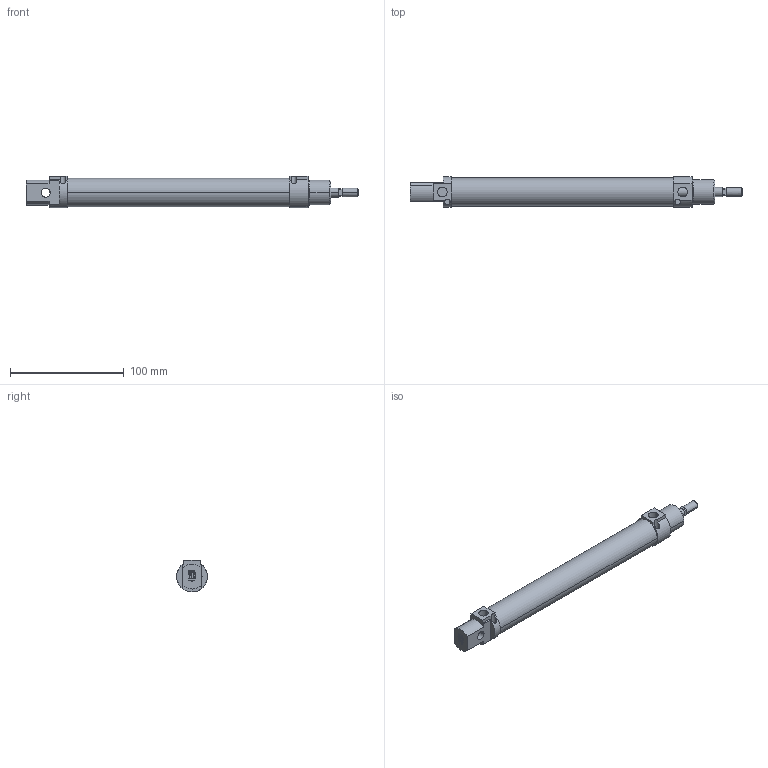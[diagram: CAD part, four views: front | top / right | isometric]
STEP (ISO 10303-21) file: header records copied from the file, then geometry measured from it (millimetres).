
FILE_DESCRIPTION(('CATIA V5 STEP Exchange'),'2;1');
FILE_NAME('D:\stp file for catalog\PSN\20\PSN-20-08-160.stp','2018-04-28T10:14:13+00:00',('none'),('none'),'CATIA Version 5-6 Release 2016','CATIA V5 STEP AP203','none');
FILE_SCHEMA(('CONFIG_CONTROL_DESIGN'));
Length unit declared in the file: millimetre
Products named in the file (1): PSN-20-08-160-00
Assembly tree (2 placements, depth 2):
  PSN-20-08-160-00
    #57
    #5057
Bounding box: 292.25 x 26.99 x 28 mm (x, y, z)
Volume: 79946.4 mm3; surface area: 47031.4 mm2
Topology: 2 solids, 3 shells, 206 faces, 515 edges, 338 vertices
Faces by surface type: plane 140, cylinder 60, cone 6
Entity records: 5780 total; most frequent: CARTESIAN_POINT 1106, ORIENTED_EDGE 1030, DIRECTION 763, EDGE_CURVE 515, VECTOR 361, LINE 361, VERTEX_POINT 338, AXIS2_PLACEMENT_3D 273
